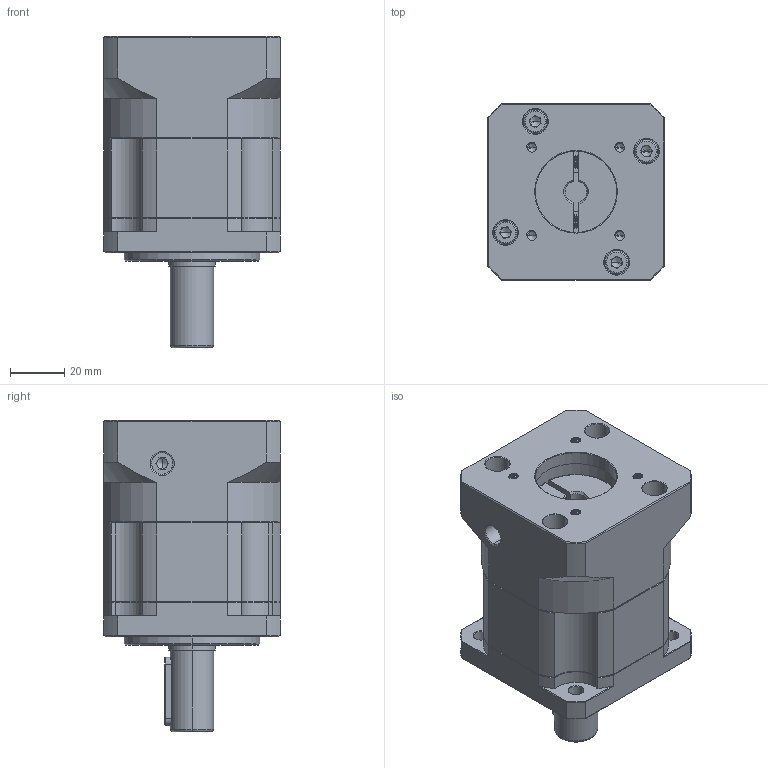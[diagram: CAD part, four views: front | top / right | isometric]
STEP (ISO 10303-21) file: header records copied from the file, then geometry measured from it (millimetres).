
FILE_DESCRIPTION (( 'STEP AP214' ), '1' );
FILE_NAME ('ZB60-D16-L1-8-30-46-M4.STEP', '2022-04-16T15:30:43', ( '' ), ( 'Microsoft' ), 'SwSTEP 2.0', 'SolidWorks 2016', '' );
FILE_SCHEMA (( 'AUTOMOTIVE_DESIGN' ));
Length unit declared in the file: millimetre
Products named in the file (1): ZB60-D16-L1-8-30-46-M4
Bounding box: 65 x 65 x 115 mm (x, y, z)
Volume: 277718 mm3; surface area: 55090.8 mm2
Topology: 6 solids, 6 shells, 1876 faces, 4981 edges, 3188 vertices
Faces by surface type: plane 879, cylinder 381, bspline 299, cone 283, torus 34
Entity records: 98911 total; most frequent: CARTESIAN_POINT 34084, ORIENTED_EDGE 9902, DIRECTION 8107, EDGE_CURVE 4951, VERTEX_POINT 3188, LINE 3013, VECTOR 3013, AXIS2_PLACEMENT_3D 2547
